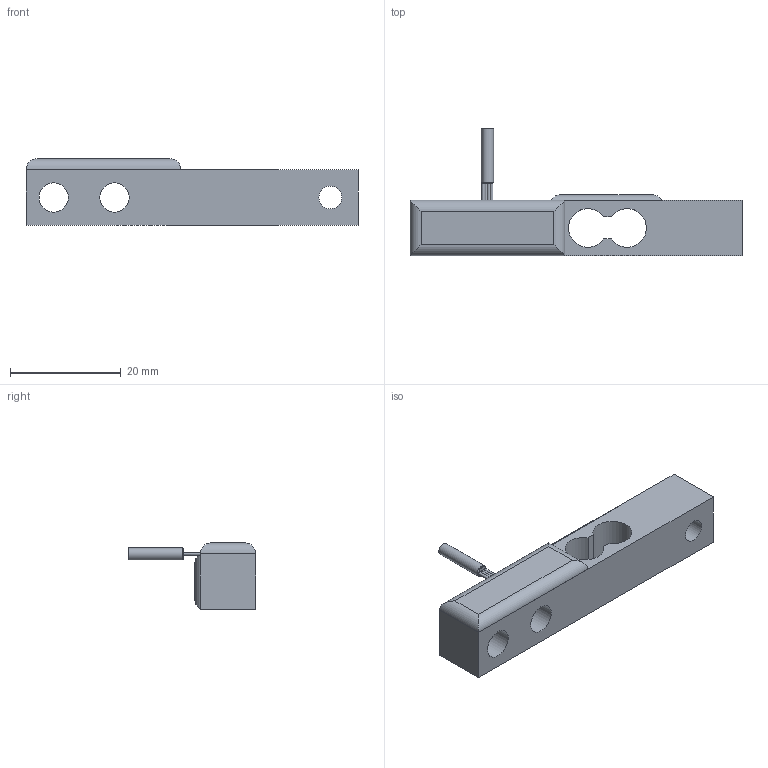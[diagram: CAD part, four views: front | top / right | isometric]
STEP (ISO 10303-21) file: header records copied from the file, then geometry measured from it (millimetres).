
FILE_DESCRIPTION(/* description */ ('Alibre Inc.'),/* implementation_level */ '2;1');
FILE_NAME(/* name */ 'export0',/* time_stamp */ '2015-07-10T09:39:23+02:00',/* author */ (''),/* organization */ (''),/* preprocessor_version */ 'ST-DEVELOPER v14',/* originating_system */ 'Alibre',/* authorisation */ '');
FILE_SCHEMA (('CONFIG_CONTROL_DESIGN'));
Length unit declared in the file: centimetre
Products named in the file (6): ID_1
Bounding box: 60 x 23 x 12 mm (x, y, z)
Volume: 5345.9 mm3; surface area: 4337.8 mm2
Topology: 4 solids, 4 shells, 40 faces, 83 edges, 51 vertices
Faces by surface type: cylinder 20, plane 19, cone 1
Full cylindrical faces by diameter (mm): 0.5 x2, 2.2 x1, 4.134 x1, 5.3 x2
Entity records: 1660 total; most frequent: CARTESIAN_POINT 220, DIRECTION 175, ORIENTED_EDGE 160, EDGE_CURVE 77, AXIS2_PLACEMENT_3D 77, PERSON_AND_ORGANIZATION 58, EDGE_LOOP 53, FACE_BOUND 53
